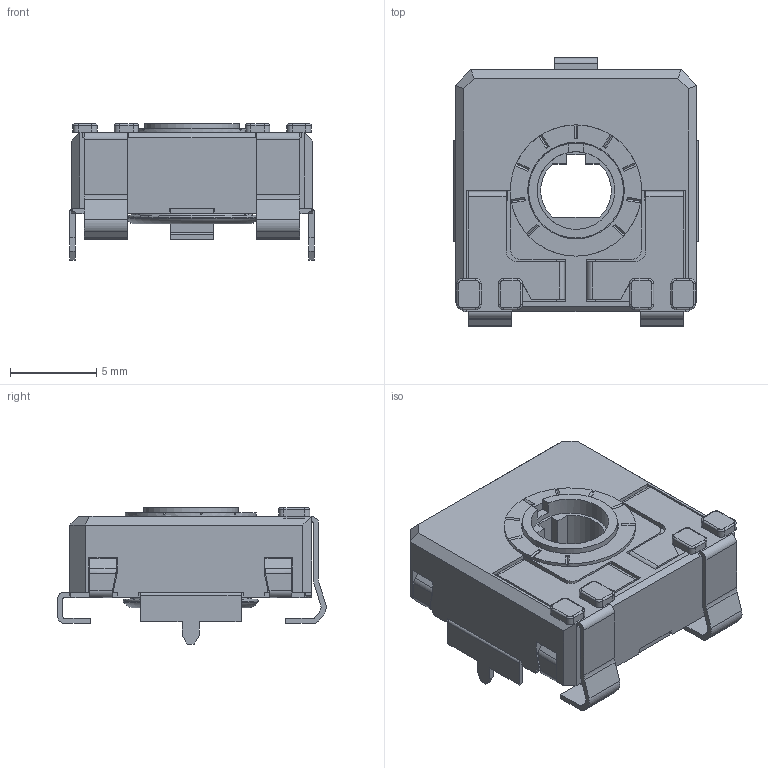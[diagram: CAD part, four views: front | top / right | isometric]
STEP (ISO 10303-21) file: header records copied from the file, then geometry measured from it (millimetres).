
FILE_DESCRIPTION(/* description */ (''),/* implementation_level */ '2;1');
FILE_NAME(/* name */ '\\SERVERACP\intercambio\Ignacio Santa Cecilia\Nueva WEB 2025\CA14 - CE14\CA14TVSMD CY.stp',/* time_stamp */ '2025-07-01T12:11:25+02:00',/* author */ ('CEM'),/* organization */ (''),/* preprocessor_version */ 'ST-DEVELOPER v17',/* originating_system */ 'Autodesk Inventor 2018',/* authorisation */ '');
FILE_SCHEMA (('AUTOMOTIVE_DESIGN { 1 0 10303 214 3 1 1 }'));
Length unit declared in the file: millimetre
Products named in the file (1): CARCASA CA14 PGA
Bounding box: 14.15 x 15.55 x 7.9 mm (x, y, z)
Volume: 541.9 mm3; surface area: 1519.7 mm2
Topology: 1 solids, 1 shells, 575 faces, 1635 edges, 1047 vertices
Faces by surface type: plane 429, cylinder 109, torus 23, bspline 8, cone 6
Full cylindrical faces by diameter (mm): 4.5 x1, 5.5 x1, 5.6 x1, 5.752 x1, 6.8 x1, 7.6 x1
Entity records: 18935 total; most frequent: CARTESIAN_POINT 3555, ORIENTED_EDGE 3270, DIRECTION 3029, EDGE_CURVE 1635, LINE 1287, VECTOR 1287, VERTEX_POINT 1047, AXIS2_PLACEMENT_3D 871
